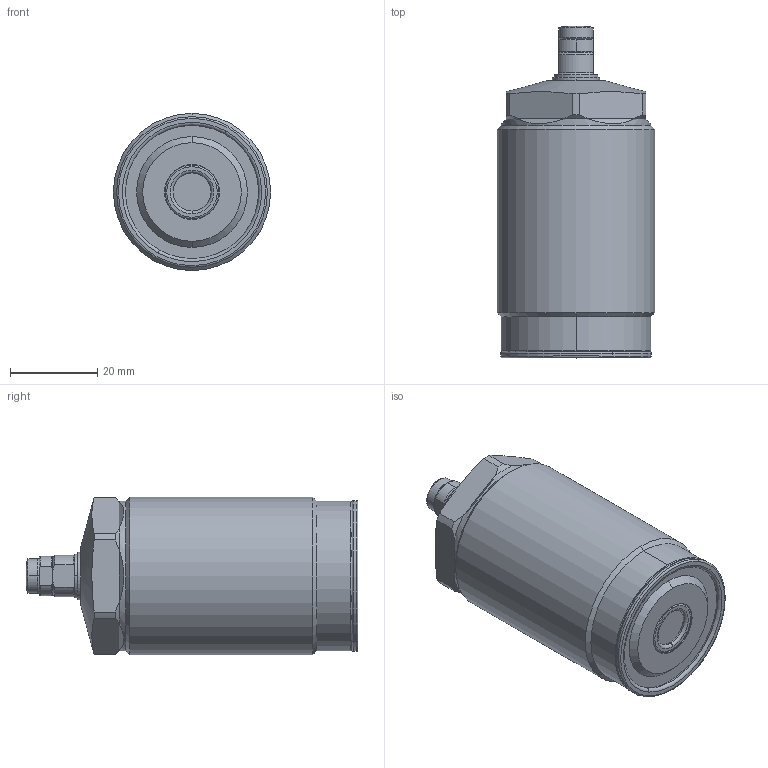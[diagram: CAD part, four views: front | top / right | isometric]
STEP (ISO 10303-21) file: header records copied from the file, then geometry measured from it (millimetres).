
FILE_DESCRIPTION(/* description */ (''),/* implementation_level */ '2;1');
FILE_NAME(/* name */ 'TNL36-M.stp',/* time_stamp */ '2025-01-09T10:04:27+08:00',/* author */ (''),/* organization */ (''),/* preprocessor_version */ 'ST-DEVELOPER v16.7',/* originating_system */ 'SIEMENS PLM Software NX 12.0',/* authorisation */ '');
FILE_SCHEMA (('AUTOMOTIVE_DESIGN { 1 0 10303 214 3 1 1 1 }'));
Length unit declared in the file: millimetre
Products named in the file (9): XLD-M6SP_pad952; XLD-M6SP_pin953; XLD-M6SP_contactbolt954; XLD-M6SP_Oring955; TNL36-01956; TNL36-02957; TNL36-05958; XLDM6SP959; TNL36-M_stp
Assembly tree (8 placements, depth 3):
  TNL36-M_stp
    TNL36-05958
    TNL36-02957
    TNL36-01956
    XLDM6SP959
      XLD-M6SP_Oring955
      XLD-M6SP_contactbolt954
      XLD-M6SP_pin953
      XLD-M6SP_pad952
Bounding box: 36 x 76 x 36 mm (x, y, z)
Volume: 61744.5 mm3; surface area: 10881.7 mm2
Topology: 7 solids, 7 shells, 189 faces, 424 edges, 255 vertices
Faces by surface type: cylinder 57, plane 43, cone 43, torus 42, sphere 4
Full cylindrical faces by diameter (mm): 34.2 x1, 36 x1
Entity records: 5919 total; most frequent: CARTESIAN_POINT 1397, DIRECTION 1007, ORIENTED_EDGE 840, AXIS2_PLACEMENT_3D 443, EDGE_CURVE 420, VERTEX_POINT 255, CIRCLE 239, EDGE_LOOP 213
